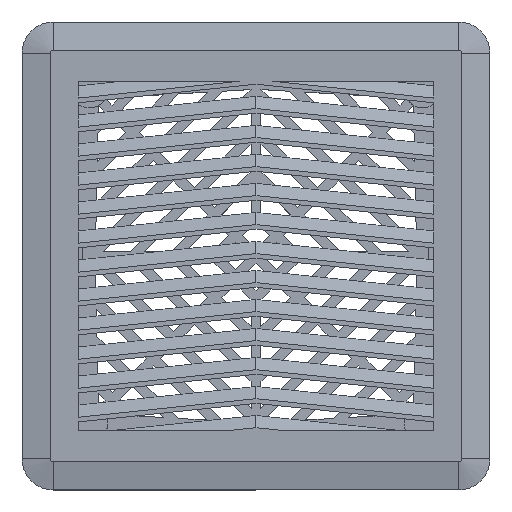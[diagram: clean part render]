
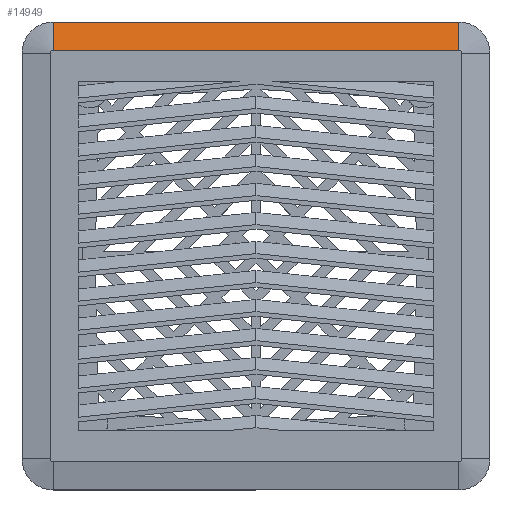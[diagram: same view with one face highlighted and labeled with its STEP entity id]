
A CAD part, top view. The second image highlights one B-rep face of the part: STEP entity #14949.
In plain terms, the highlighted planar face has unit normal (0, 0.208, 0.978).
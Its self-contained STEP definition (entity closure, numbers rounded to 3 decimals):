
#1640 = ORIENTED_EDGE ( 'NONE', *, *, #4842, .F. ) ;
#1714 = ORIENTED_EDGE ( 'NONE', *, *, #4815, .F. ) ;
#1737 = ORIENTED_EDGE ( 'NONE', *, *, #8690, .F. ) ;
#2066 = ORIENTED_EDGE ( 'NONE', *, *, #8681, .F. ) ;
#3364 = AXIS2_PLACEMENT_3D ( 'NONE', #18252, #18257, #18258 ) ;
#4610 = VECTOR ( 'NONE', #6658, 1000. ) ;
#4614 = LINE ( 'NONE', #6285, #4610 ) ;
#4815 = EDGE_CURVE ( 'NONE', #11203, #11194, #4614, .T. ) ;
#4842 = EDGE_CURVE ( 'NONE', #11198, #11200, #18522, .T. ) ;
#6037 = CARTESIAN_POINT ( 'NONE',  ( 65., 75., 5.587 ) ) ;
#6285 = CARTESIAN_POINT ( 'NONE',  ( -65., 66., 7.5 ) ) ;
#6658 = DIRECTION ( 'NONE',  ( 0., 0.978, -0.208 ) ) ;
#8210 = LINE ( 'NONE', #9300, #8217 ) ;
#8217 = VECTOR ( 'NONE', #9346, 1000. ) ;
#8222 = LINE ( 'NONE', #9013, #8225 ) ;
#8225 = VECTOR ( 'NONE', #9365, 1000. ) ;
#8681 = EDGE_CURVE ( 'NONE', #11200, #11203, #8210, .T. ) ;
#8690 = EDGE_CURVE ( 'NONE', #11194, #11198, #8222, .T. ) ;
#9013 = CARTESIAN_POINT ( 'NONE',  ( 65., 75., 5.587 ) ) ;
#9300 = CARTESIAN_POINT ( 'NONE',  ( -65., 66., 7.5 ) ) ;
#9346 = DIRECTION ( 'NONE',  ( -1., 0., 0. ) ) ;
#9365 = DIRECTION ( 'NONE',  ( 1., 0., 0. ) ) ;
#11194 = VERTEX_POINT ( 'NONE', #11991 ) ;
#11198 = VERTEX_POINT ( 'NONE', #11879 ) ;
#11200 = VERTEX_POINT ( 'NONE', #11889 ) ;
#11203 = VERTEX_POINT ( 'NONE', #11888 ) ;
#11879 = CARTESIAN_POINT ( 'NONE',  ( 65., 75., 5.587 ) ) ;
#11888 = CARTESIAN_POINT ( 'NONE',  ( -65., 66., 7.5 ) ) ;
#11889 = CARTESIAN_POINT ( 'NONE',  ( 65., 66., 7.5 ) ) ;
#11991 = CARTESIAN_POINT ( 'NONE',  ( -65., 75., 5.587 ) ) ;
#12420 = EDGE_LOOP ( 'NONE', ( #1640, #1737, #1714, #2066 ) ) ;
#14661 = DIRECTION ( 'NONE',  ( 0., -0.978, 0.208 ) ) ;
#14949 = ADVANCED_FACE ( 'NONE', ( #16254 ), #18251, .T. ) ;
#16254 = FACE_OUTER_BOUND ( 'NONE', #12420, .T. ) ;
#18251 = PLANE ( 'NONE',  #3364 ) ;
#18252 = CARTESIAN_POINT ( 'NONE',  ( 0., 66., 7.5 ) ) ;
#18257 = DIRECTION ( 'NONE',  ( 0., 0.208, 0.978 ) ) ;
#18258 = DIRECTION ( 'NONE',  ( 1., 0., 0. ) ) ;
#18517 = VECTOR ( 'NONE', #14661, 1000. ) ;
#18522 = LINE ( 'NONE', #6037, #18517 ) ;
